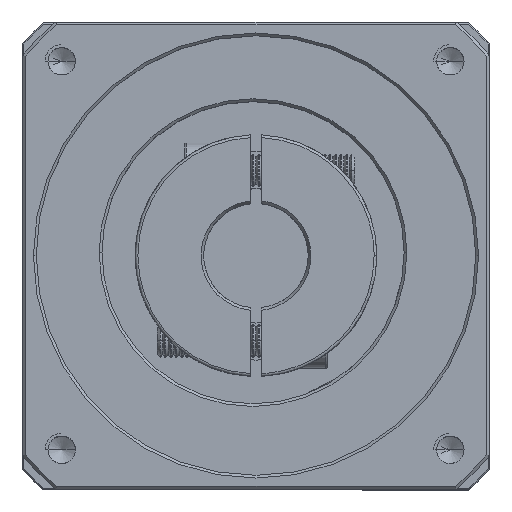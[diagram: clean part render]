
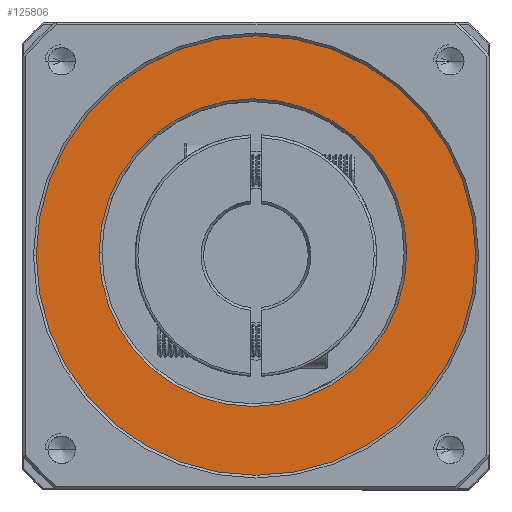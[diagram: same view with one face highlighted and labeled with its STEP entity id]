
A CAD part, top view. The second image highlights one B-rep face of the part: STEP entity #125806.
In plain terms, the highlighted planar face has unit normal (0, 0, 1).
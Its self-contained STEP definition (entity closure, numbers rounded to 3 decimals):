
#6061 = DIRECTION ( 'NONE',  ( 0., 0., -1. ) ) ;
#6897 = DIRECTION ( 'NONE',  ( 1., 0., 0. ) ) ;
#7578 = DIRECTION ( 'NONE',  ( 1., 0., 0. ) ) ;
#8530 = CARTESIAN_POINT ( 'NONE',  ( -100.257, 25.408, 11.032 ) ) ;
#18926 = CARTESIAN_POINT ( 'NONE',  ( -32.799, 25.942, 11.032 ) ) ;
#21526 = FACE_OUTER_BOUND ( 'NONE', #68411, .T. ) ;
#37820 = DIRECTION ( 'NONE',  ( 0., 0., 1. ) ) ;
#38297 = ORIENTED_EDGE ( 'NONE', *, *, #78114, .T. ) ;
#38657 = DIRECTION ( 'NONE',  ( 0., 0., 1. ) ) ;
#42518 = EDGE_CURVE ( 'NONE', #115288, #66922, #82676, .T. ) ;
#44309 = AXIS2_PLACEMENT_3D ( 'NONE', #69100, #78374, #49464 ) ;
#45619 = AXIS2_PLACEMENT_3D ( 'NONE', #67547, #38657, #7578 ) ;
#46365 = CARTESIAN_POINT ( 'NONE',  ( -60.799, 25.942, 11.032 ) ) ;
#47873 = ORIENTED_EDGE ( 'NONE', *, *, #114877, .T. ) ;
#48734 = CARTESIAN_POINT ( 'NONE',  ( -60.257, 25.408, 11.032 ) ) ;
#49464 = DIRECTION ( 'NONE',  ( 1., 0., 0. ) ) ;
#53597 = DIRECTION ( 'NONE',  ( 0., 0., -1. ) ) ;
#54314 = CARTESIAN_POINT ( 'NONE',  ( -20.257, 25.408, 11.032 ) ) ;
#54424 = FACE_BOUND ( 'NONE', #96492, .T. ) ;
#57087 = VERTEX_POINT ( 'NONE', #18926 ) ;
#57932 = DIRECTION ( 'NONE',  ( 1., 0., 0. ) ) ;
#61963 = ORIENTED_EDGE ( 'NONE', *, *, #42518, .T. ) ;
#62334 = VERTEX_POINT ( 'NONE', #110295 ) ;
#66922 = VERTEX_POINT ( 'NONE', #8530 ) ;
#67547 = CARTESIAN_POINT ( 'NONE',  ( -60.257, 25.408, 11.032 ) ) ;
#68411 = EDGE_LOOP ( 'NONE', ( #61963, #47873 ) ) ;
#68690 = PLANE ( 'NONE',  #44309 ) ;
#69100 = CARTESIAN_POINT ( 'NONE',  ( -60.257, 25.408, 11.032 ) ) ;
#72410 = AXIS2_PLACEMENT_3D ( 'NONE', #48734, #37820, #57932 ) ;
#74036 = CIRCLE ( 'NONE', #90104, 28. ) ;
#76321 = CIRCLE ( 'NONE', #76586, 28. ) ;
#76586 = AXIS2_PLACEMENT_3D ( 'NONE', #46365, #6061, #6897 ) ;
#78114 = EDGE_CURVE ( 'NONE', #57087, #62334, #76321, .T. ) ;
#78374 = DIRECTION ( 'NONE',  ( 0., 0., 1. ) ) ;
#80089 = CIRCLE ( 'NONE', #45619, 40. ) ;
#82676 = CIRCLE ( 'NONE', #72410, 40. ) ;
#83421 = DIRECTION ( 'NONE',  ( 1., 0., 0. ) ) ;
#84705 = CARTESIAN_POINT ( 'NONE',  ( -60.799, 25.942, 11.032 ) ) ;
#90104 = AXIS2_PLACEMENT_3D ( 'NONE', #84705, #53597, #83421 ) ;
#96492 = EDGE_LOOP ( 'NONE', ( #38297, #123848 ) ) ;
#110295 = CARTESIAN_POINT ( 'NONE',  ( -88.799, 25.942, 11.032 ) ) ;
#114536 = EDGE_CURVE ( 'NONE', #62334, #57087, #74036, .T. ) ;
#114877 = EDGE_CURVE ( 'NONE', #66922, #115288, #80089, .T. ) ;
#115288 = VERTEX_POINT ( 'NONE', #54314 ) ;
#123848 = ORIENTED_EDGE ( 'NONE', *, *, #114536, .T. ) ;
#125806 = ADVANCED_FACE ( 'NONE', ( #21526, #54424 ), #68690, .T. ) ;
